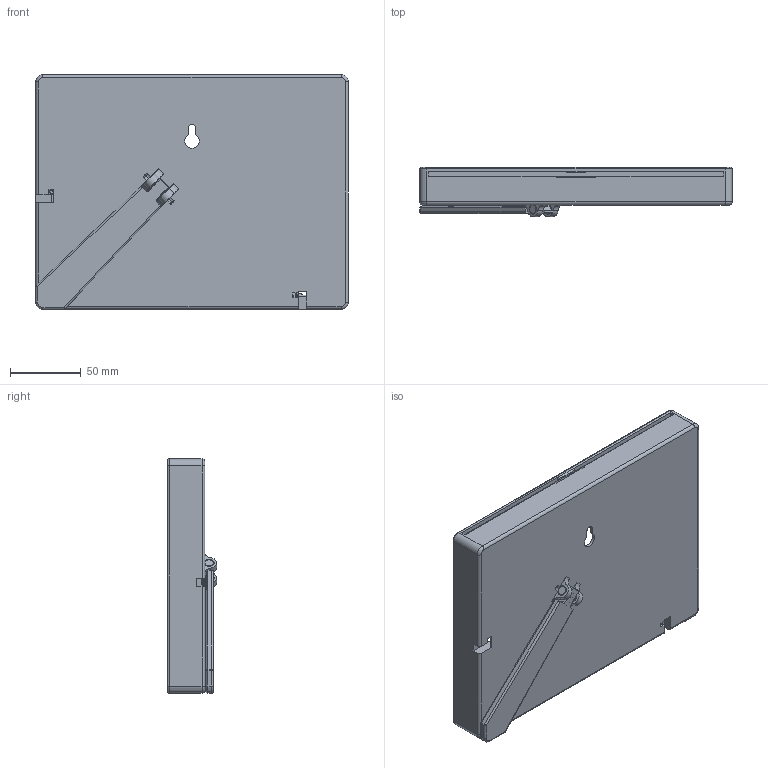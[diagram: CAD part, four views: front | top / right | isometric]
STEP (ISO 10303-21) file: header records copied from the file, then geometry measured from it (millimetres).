
FILE_DESCRIPTION((''),'2;1');
FILE_NAME('3X4V2','2025-02-14T18:21:40',('qinghui.yi'),(''),'CREO PARAMETRIC BY PTC INC, 2019164','CREO PARAMETRIC BY PTC INC, 2019164','');
FILE_SCHEMA(('CONFIG_CONTROL_DESIGN','SHAPE_APPEARANCE_LAYERS_GROUPS'));
Length unit declared in the file: millimetre
Products named in the file (1): 3X4V2
Bounding box: 220 x 34.7 x 165 mm (x, y, z)
Volume: 264137 mm3; surface area: 124614.7 mm2
Topology: 2 solids, 5 shells, 379 faces, 1071 edges, 684 vertices
Faces by surface type: plane 276, cylinder 79, torus 12, bspline 6, cone 4, sphere 2
Entity records: 13815 total; most frequent: CARTESIAN_POINT 3662, ORIENTED_EDGE 2142, DIRECTION 1901, EDGE_CURVE 1071, VECTOR 843, LINE 843, VERTEX_POINT 684, AXIS2_PLACEMENT_3D 529
